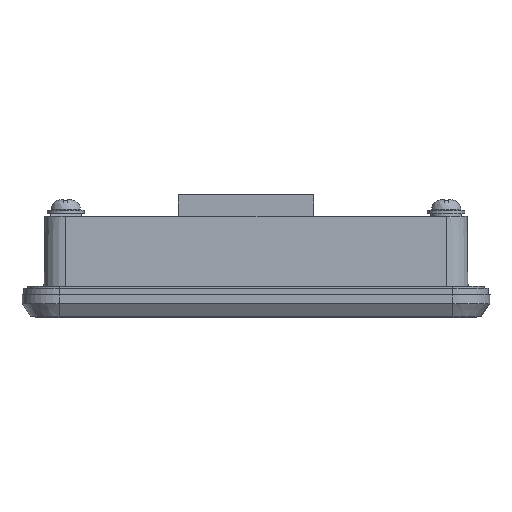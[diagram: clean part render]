
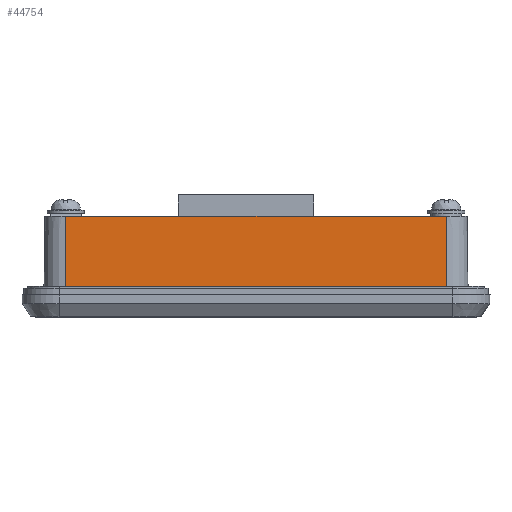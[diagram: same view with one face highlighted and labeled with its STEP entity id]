
A CAD part, left-side view. The second image highlights one B-rep face of the part: STEP entity #44754.
In plain terms, the highlighted planar face has unit normal (-1, 0, 0.009).
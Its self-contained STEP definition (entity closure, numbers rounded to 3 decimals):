
#9681=DIRECTION('',(0.,-1.,0.));
#9682=VECTOR('',#9681,87.);
#9683=CARTESIAN_POINT('',(-66.335,43.5,23.));
#9684=LINE('',#9683,#9682);
#11112=DIRECTION('',(0.,1.,0.));
#11113=VECTOR('',#11112,87.);
#11114=CARTESIAN_POINT('',(-66.5,-43.5,4.05));
#11115=LINE('',#11114,#11113);
#11202=DIRECTION('',(-0.009,0.,-1.));
#11203=VECTOR('',#11202,18.951);
#11204=CARTESIAN_POINT('',(-66.335,43.5,23.));
#11205=LINE('',#11204,#11203);
#11206=DIRECTION('',(-0.009,0.,-1.));
#11207=VECTOR('',#11206,18.951);
#11208=CARTESIAN_POINT('',(-66.335,-43.5,23.));
#11209=LINE('',#11208,#11207);
#21166=CARTESIAN_POINT('',(-66.335,43.5,23.));
#21168=VERTEX_POINT('',#21166);
#21169=CARTESIAN_POINT('',(-66.335,-43.5,23.));
#21171=VERTEX_POINT('',#21169);
#21191=CARTESIAN_POINT('',(-66.5,-43.5,4.05));
#21192=VERTEX_POINT('',#21191);
#21193=CARTESIAN_POINT('',(-66.5,43.5,4.05));
#21194=VERTEX_POINT('',#21193);
#44742=CARTESIAN_POINT('',(-66.5,51.858,4.05));
#44743=DIRECTION('',(-1.,0.,0.009));
#44744=DIRECTION('',(0.,-1.,0.));
#44745=AXIS2_PLACEMENT_3D('',#44742,#44743,#44744);
#44746=PLANE('',#44745);
#44748=ORIENTED_EDGE('',*,*,#44747,.T.);
#44749=ORIENTED_EDGE('',*,*,#44617,.T.);
#44750=ORIENTED_EDGE('',*,*,#44727,.F.);
#44751=ORIENTED_EDGE('',*,*,#41216,.T.);
#44752=EDGE_LOOP('',(#44748,#44749,#44750,#44751));
#44753=FACE_OUTER_BOUND('',#44752,.F.);
#41216=EDGE_CURVE('',#21168,#21171,#9684,.T.);
#44617=EDGE_CURVE('',#21192,#21194,#11115,.T.);
#44727=EDGE_CURVE('',#21168,#21194,#11205,.T.);
#44747=EDGE_CURVE('',#21171,#21192,#11209,.T.);
#44754=ADVANCED_FACE('',(#44753),#44746,.T.);
